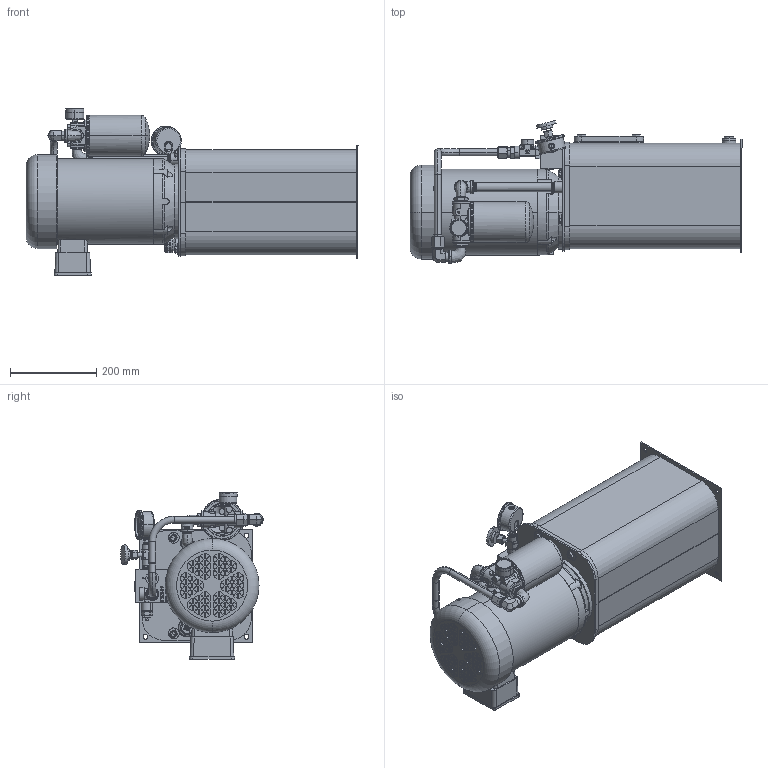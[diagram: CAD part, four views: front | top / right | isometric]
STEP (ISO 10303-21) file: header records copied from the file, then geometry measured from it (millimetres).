
FILE_DESCRIPTION (( 'STEP AP214' ), '1' );
FILE_NAME ('T5V-20-X-NN-F1-079.STEP', '2021-09-01T16:14:56', ( '' ), ( '' ), 'SwSTEP 2.0', 'SolidWorks 2020', '' );
FILE_SCHEMA (( 'AUTOMOTIVE_DESIGN' ));
Length unit declared in the file: inch
Products named in the file (1): T5V-20-X-NN-F1-079
Bounding box: 771.71 x 331.66 x 387.51 mm (x, y, z)
Surface area: 1163194.6 mm2 (no closed solid volume)
Topology: 0 solids, 100 shells, 1828 faces, 7807 edges, 5833 vertices
Faces by surface type: plane 948, cylinder 398, cone 329, torus 77, bspline 66, sphere 10
Entity records: 143705 total; most frequent: CARTESIAN_POINT 59071, DIRECTION 11960, ORIENTED_EDGE 11426, EDGE_CURVE 7807, VERTEX_POINT 5833, VECTOR 4186, LINE 4186, AXIS2_PLACEMENT_3D 3887
